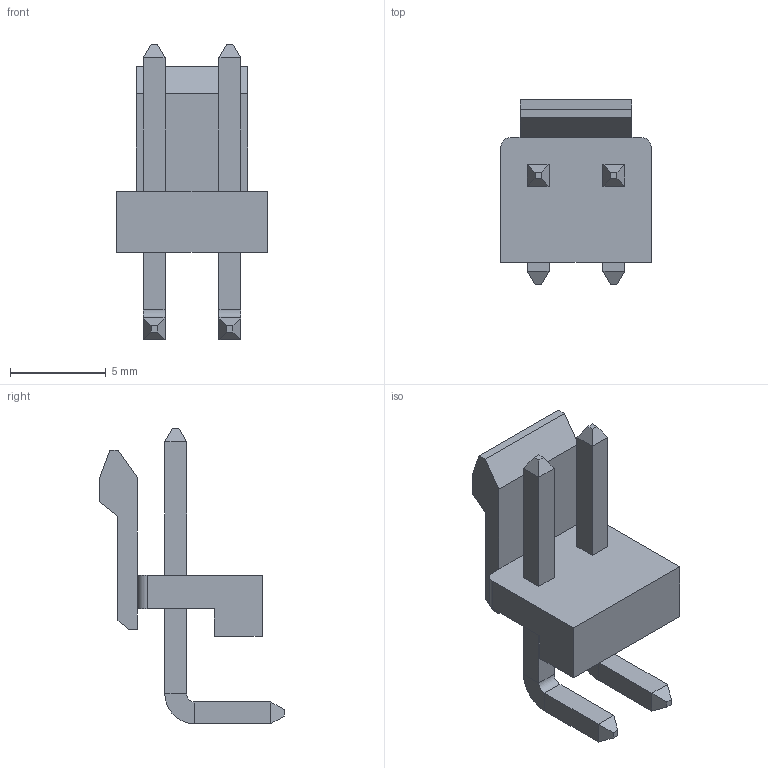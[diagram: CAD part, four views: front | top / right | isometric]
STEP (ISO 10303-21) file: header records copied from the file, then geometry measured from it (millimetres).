
FILE_DESCRIPTION (( 'STEP AP214' ), '1' );
FILE_NAME ('B2PS-VH(LF)(SN).STEP', '2025-11-27T16:02:54', ( '' ), ( '' ), 'SwSTEP 2.0', 'SolidWorks 2021', '' );
FILE_SCHEMA (( 'AUTOMOTIVE_DESIGN' ));
Length unit declared in the file: millimetre
Products named in the file (1): B2PS-VH(LF)(SN)
Bounding box: 7.86 x 9.66 x 15.47 mm (x, y, z)
Volume: 230.1 mm3; surface area: 466 mm2
Topology: 1 solids, 1 shells, 75 faces, 171 edges, 102 vertices
Faces by surface type: plane 69, cylinder 6
Entity records: 2316 total; most frequent: CARTESIAN_POINT 349, ORIENTED_EDGE 342, DIRECTION 335, EDGE_CURVE 171, VECTOR 159, LINE 159, VERTEX_POINT 102, AXIS2_PLACEMENT_3D 88
